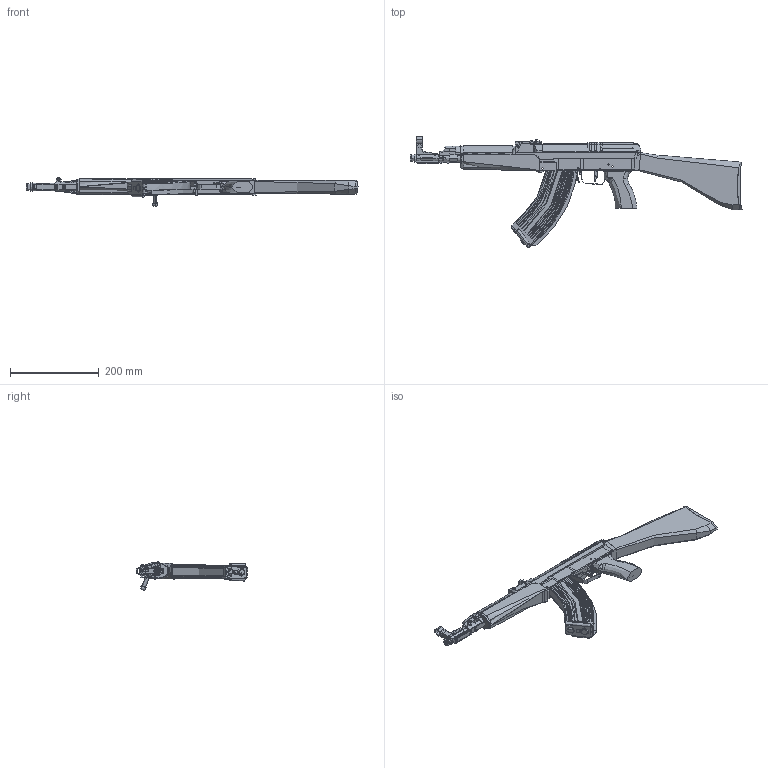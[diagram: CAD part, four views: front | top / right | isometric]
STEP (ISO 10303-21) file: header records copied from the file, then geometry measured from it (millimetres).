
FILE_DESCRIPTION (( 'STEP AP214' ), '1' );
FILE_NAME ('STEP Assembly.STEP', '2016-11-28T23:07:36', ( '' ), ( '' ), 'SwSTEP 2.0', 'SolidWorks 2013', '' );
FILE_SCHEMA (( 'AUTOMOTIVE_DESIGN' ));
Length unit declared in the file: millimetre
Products named in the file (61): Bolt; Buttstock; ak magazine cover; Gas Piston Cover; Bolt Hold Open --- Mag Release; ak magazine buttplate; Barrel Bushing; Sling Ring; ak 12_3_MODEL30070; Gas block; Trigger Guard; ak 12_3_MODEL; Barrel; Grip Screw Washer; ak 12_3_MODEL_2; Bolt lock; Pistol Grip; ak 12_3_MODEL_3; Gas piston; Grip Nut; Assem2^Assem1; Rear Sight; ak 12_4; Bolt Carrier; 1; Front sight Post; ak 12_5; VZ58 receiver; Magazine Release; Dust Cover 1; 7.62 x 39 mm; Pin 2; Striker Spring; 7.62 x 39 mm_5; STEP Assembly; Pin 3; Recoil Spring; 7.62 x 39 mm_6; Pin 1; recoil spring plug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
Assembly tree (125 placements, depth 5):
  STEP Assembly
    VZ58 receiver
    Assem2^Assem1
      Bolt Carrier
    Gas piston
    Bolt lock
    Barrel
    Gas block
    Barrel Bushing
    Gas Piston Cover
    Bolt
    Front Sight
    Upper Handguard
    Spring Guide Block
    Striker Spring Guide Rod
    Recoil Spring Guide Rod
    Recoil Spring Guide spring
    recoil spring plug
    Recoil Spring
    Striker Spring
    Dust Cover 1
    Front sight Post
    Rear Sight
    Grip Nut
    Pistol Grip
    Grip Screw Washer
    Trigger Guard
    Sling Ring
    Bolt Hold Open --- Mag Release
    Buttstock
    Lower Handguard Front Mount
    Lower Handguard
    Butt Plate
    ak47 magazine
      7.62 x 39 mm  x30
        7.62 x 39 mm_4
        7.62 x 39 mm_3
        7.62 x 39 mm_2
        7.62 x 39 mm
        7.62 x 39 mm_6
        7.62 x 39 mm_5
      ak 12_3_MODEL30070
        ak 12_5  x36
        ak 12_4  x2
        ak 12_3_MODEL
          ak 12_3_MODEL
          ak 12_3_MODEL_3
          ak 12_3_MODEL_2
      ak magazine buttplate
      ak magazine cover
      ak 12_stp
        Body
        ak 12_stp_3
        ak 12_stp_2
    Linear Hammer
    Elevation Selector
    Pin 1
    Pin 3
    Pin 2
    Magazine Release
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Bounding box: 748.47 x 250.61 x 64.7 mm (x, y, z)
Volume: 1135194 mm3; surface area: 585364.6 mm2
Topology: 265 solids, 265 shells, 5874 faces, 15700 edges, 10428 vertices
Faces by surface type: plane 2688, cylinder 1683, cone 792, bspline 616, torus 87, sphere 8
Entity records: 177630 total; most frequent: CARTESIAN_POINT 99241, ORIENTED_EDGE 16878, DIRECTION 11822, EDGE_CURVE 8439, VERTEX_POINT 5847, AXIS2_PLACEMENT_3D 4013, LINE 3796, VECTOR 3796
